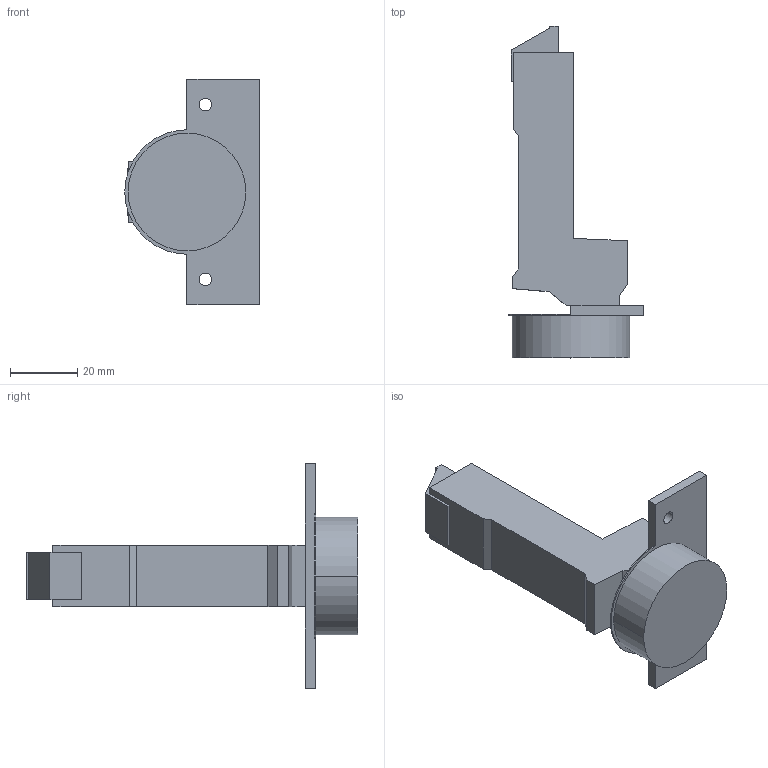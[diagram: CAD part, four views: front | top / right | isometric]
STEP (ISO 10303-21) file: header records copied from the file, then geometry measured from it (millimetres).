
FILE_DESCRIPTION (( 'STEP AP214' ), '1' );
FILE_NAME ('Scharnier TS Click-on 110° H_BB, K19.step', '2018-09-12T09:10:32', ( '' ), ( '' ), 'SwSTEP 2.0', 'SolidWorks 2017', '' );
FILE_SCHEMA (( 'AUTOMOTIVE_DESIGN' ));
Length unit declared in the file: millimetre
Products named in the file (1): Scharnier TS Click-on 110° H_BB, K19
Bounding box: 40 x 98.7 x 67 mm (x, y, z)
Volume: 45258 mm3; surface area: 12726.9 mm2
Topology: 1 solids, 1 shells, 51 faces, 133 edges, 88 vertices
Faces by surface type: plane 37, cylinder 14
Entity records: 1601 total; most frequent: CARTESIAN_POINT 273, ORIENTED_EDGE 266, DIRECTION 265, EDGE_CURVE 133, VECTOR 105, LINE 105, VERTEX_POINT 88, AXIS2_PLACEMENT_3D 80
